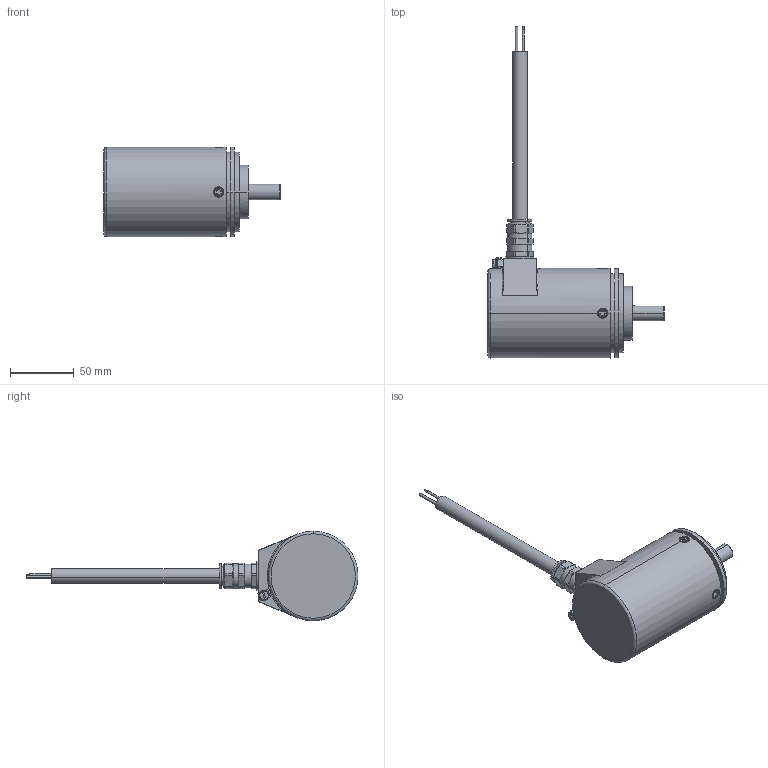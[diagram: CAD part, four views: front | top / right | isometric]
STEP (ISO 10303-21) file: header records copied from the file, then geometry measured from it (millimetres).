
FILE_DESCRIPTION (( 'STEP AP203' ), '1' );
FILE_NAME ('8.7014FSX.11XB.XXXX.XXXX.STEP', '2013-08-05T11:18:51', ( 'Admin' ), ( 'Fritz Kübler GmbH' ), 'SwSTEP 2.0', 'SolidWorks 2012', '' );
FILE_SCHEMA (( 'CONFIG_CONTROL_DESIGN' ));
Length unit declared in the file: millimetre
Products named in the file (1): 8.7014FSX.11XB.XXXX.XXXX
Bounding box: 137.7 x 259.6 x 70 mm (x, y, z)
Volume: 293306.6 mm3; surface area: 99806.7 mm2
Topology: 21 solids, 22 shells, 1075 faces, 2595 edges, 1608 vertices
Faces by surface type: cylinder 424, plane 372, cone 172, torus 83, sphere 20, bspline 4
Entity records: 32423 total; most frequent: CARTESIAN_POINT 7029, DIRECTION 5613, ORIENTED_EDGE 5014, EDGE_CURVE 2507, AXIS2_PLACEMENT_3D 2180, VERTEX_POINT 1578, LINE 1253, VECTOR 1253
